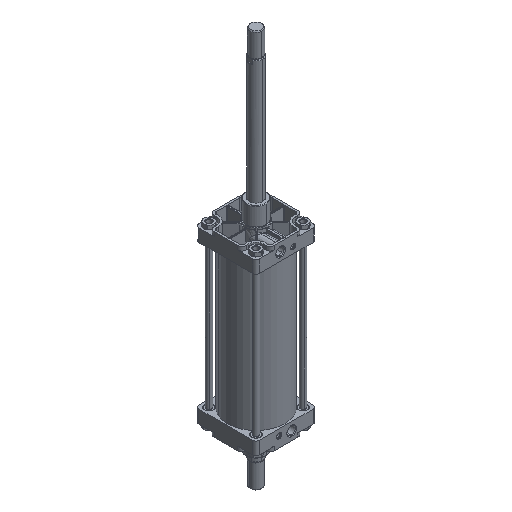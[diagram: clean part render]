
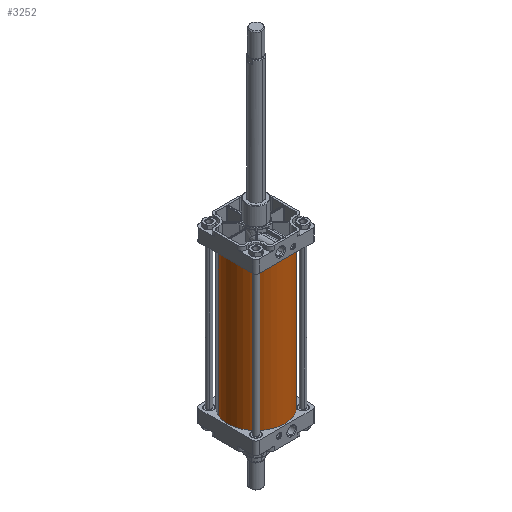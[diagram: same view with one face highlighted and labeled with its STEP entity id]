
A CAD part, isometric view. The second image highlights one B-rep face of the part: STEP entity #3252.
In plain terms, the highlighted cylindrical face has radius 85 mm (diameter 170 mm), a partial arc.
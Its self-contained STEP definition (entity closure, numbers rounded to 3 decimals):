
#864 = AXIS2_PLACEMENT_3D ( 'NONE', #28420, #28416, #28398 ) ;
#3252 = ADVANCED_FACE ( 'NONE', ( #13844 ), #14008, .T. ) ;
#7108 = CARTESIAN_POINT ( 'NONE',  ( 0., 85., 430. ) ) ;
#7556 = VERTEX_POINT ( 'NONE', #7108 ) ;
#7829 = VECTOR ( 'NONE', #13626, 1000. ) ;
#8968 = DIRECTION ( 'NONE',  ( 0., 1., 0. ) ) ;
#9008 = DIRECTION ( 'NONE',  ( 0., 0., -1. ) ) ;
#9051 = CARTESIAN_POINT ( 'NONE',  ( 0., 0., 430. ) ) ;
#10015 = CIRCLE ( 'NONE', #864, 85. ) ;
#10226 = EDGE_CURVE ( 'NONE', #22130, #25007, #23415, .T. ) ;
#11566 = EDGE_CURVE ( 'NONE', #12174, #25007, #10015, .T. ) ;
#12174 = VERTEX_POINT ( 'NONE', #20930 ) ;
#12692 = ORIENTED_EDGE ( 'NONE', *, *, #16089, .T. ) ;
#13150 = CIRCLE ( 'NONE', #19193, 85. ) ;
#13349 = ORIENTED_EDGE ( 'NONE', *, *, #23037, .T. ) ;
#13626 = DIRECTION ( 'NONE',  ( 0., 0., -1. ) ) ;
#13654 = CARTESIAN_POINT ( 'NONE',  ( 0., 85., 430. ) ) ;
#13682 = ORIENTED_EDGE ( 'NONE', *, *, #11566, .T. ) ;
#13844 = FACE_OUTER_BOUND ( 'NONE', #15561, .T. ) ;
#14008 = CYLINDRICAL_SURFACE ( 'NONE', #20084, 85. ) ;
#14275 = DIRECTION ( 'NONE',  ( 0., 0., -1. ) ) ;
#14283 = DIRECTION ( 'NONE',  ( 0., 1., 0. ) ) ;
#14498 = CARTESIAN_POINT ( 'NONE',  ( 0., 0., 430. ) ) ;
#15340 = ORIENTED_EDGE ( 'NONE', *, *, #10226, .F. ) ;
#15561 = EDGE_LOOP ( 'NONE', ( #15340, #13349, #12692, #13682 ) ) ;
#16089 = EDGE_CURVE ( 'NONE', #7556, #12174, #18981, .T. ) ;
#16325 = CARTESIAN_POINT ( 'NONE',  ( 0., -85., 0. ) ) ;
#18864 = VECTOR ( 'NONE', #20706, 1000. ) ;
#18981 = LINE ( 'NONE', #13654, #7829 ) ;
#19193 = AXIS2_PLACEMENT_3D ( 'NONE', #9051, #9008, #8968 ) ;
#19959 = CARTESIAN_POINT ( 'NONE',  ( 0., -85., 430. ) ) ;
#20084 = AXIS2_PLACEMENT_3D ( 'NONE', #14498, #14275, #14283 ) ;
#20706 = DIRECTION ( 'NONE',  ( 0., 0., -1. ) ) ;
#20930 = CARTESIAN_POINT ( 'NONE',  ( 0., 85., 0. ) ) ;
#21180 = CARTESIAN_POINT ( 'NONE',  ( 0., -85., 430. ) ) ;
#22130 = VERTEX_POINT ( 'NONE', #21180 ) ;
#23037 = EDGE_CURVE ( 'NONE', #22130, #7556, #13150, .T. ) ;
#23415 = LINE ( 'NONE', #19959, #18864 ) ;
#25007 = VERTEX_POINT ( 'NONE', #16325 ) ;
#28398 = DIRECTION ( 'NONE',  ( 0., 1., 0. ) ) ;
#28416 = DIRECTION ( 'NONE',  ( 0., 0., 1. ) ) ;
#28420 = CARTESIAN_POINT ( 'NONE',  ( 0., 0., 0. ) ) ;
